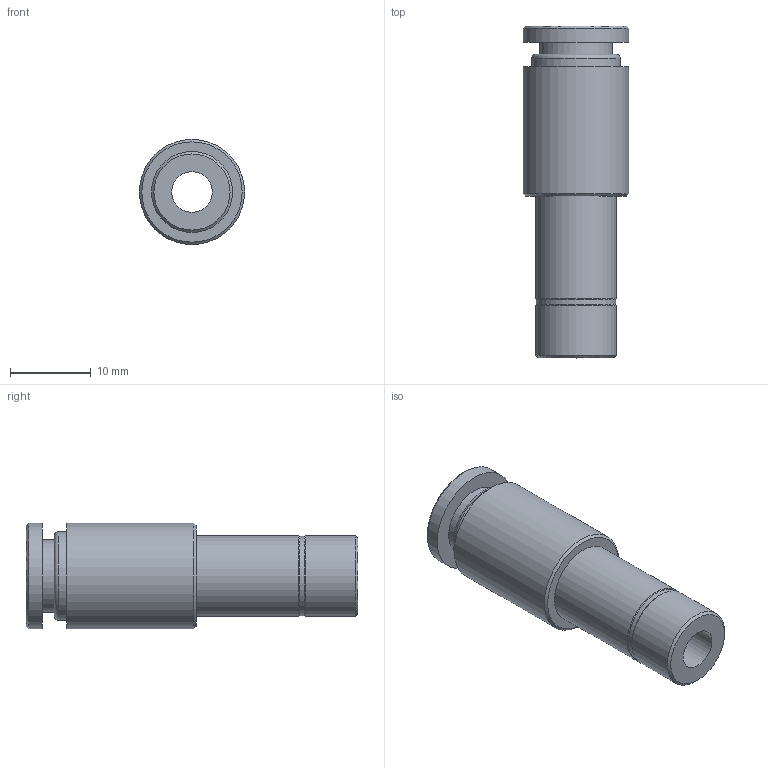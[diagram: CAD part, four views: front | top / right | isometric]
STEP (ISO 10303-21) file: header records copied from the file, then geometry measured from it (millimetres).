
FILE_DESCRIPTION(/* description */ (''),/* implementation_level */ '2;1');
FILE_NAME(/* name */ 'LXH66 1008 00.stp',/* time_stamp */ '2026-04-19T15:15:34+02:00',/* author */ ('freju'),/* organization */ (''),/* preprocessor_version */ 'ST-DEVELOPER v20.1',/* originating_system */ 'Autodesk Inventor 2026',/* authorisation */ '');
FILE_SCHEMA (('AUTOMOTIVE_DESIGN { 1 0 10303 214 3 1 1 }'));
Length unit declared in the file: millimetre
Products named in the file (1): LXH66 1008 00
Bounding box: 13 x 41 x 13 mm (x, y, z)
Volume: 2863 mm3; surface area: 2601.7 mm2
Topology: 1 solids, 1 shells, 22 faces, 45 edges, 30 vertices
Faces by surface type: cylinder 9, plane 7, torus 3, cone 3
Full cylindrical faces by diameter (mm): 5 x1, 8 x1, 9 x1, 9.8 x1, 10 x2, 11 x1, 13 x2
Entity records: 649 total; most frequent: DIRECTION 124, CARTESIAN_POINT 98, ORIENTED_EDGE 90, AXIS2_PLACEMENT_3D 56, EDGE_CURVE 45, CIRCLE 33, VERTEX_POINT 30, EDGE_LOOP 29
